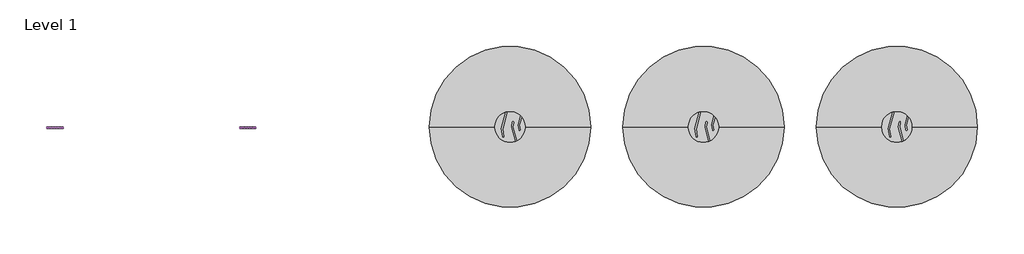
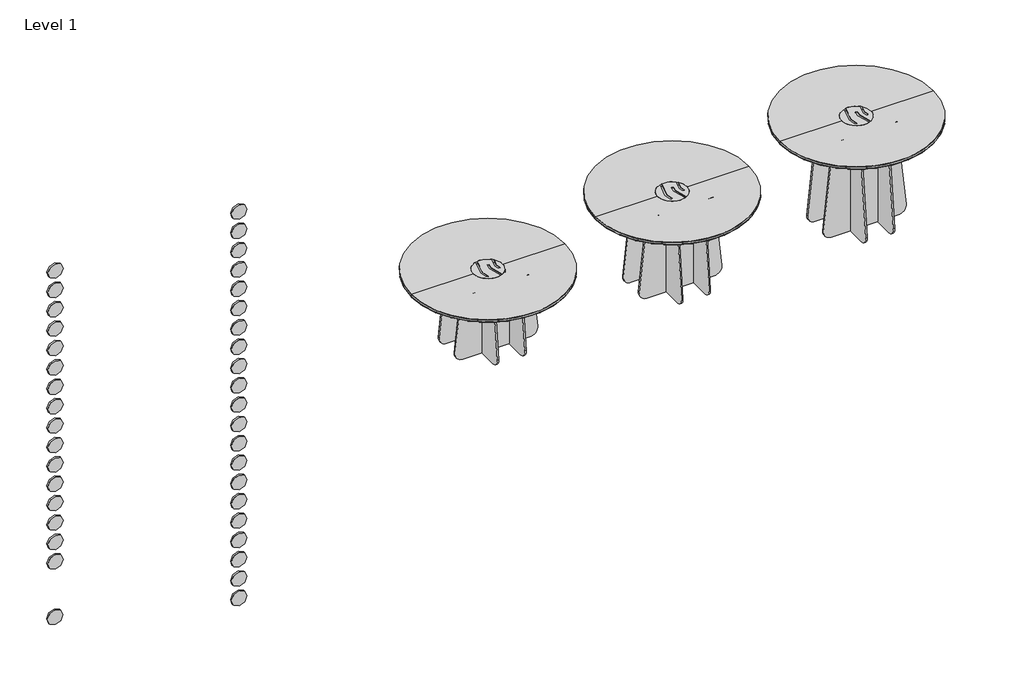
# One storey: 38 proxies, 3 furniture elements.
"""IFC4 building model written with IfcOpenShell, lengths in millimetres."""

from ifc_helpers import new_model, si_unit, origin, place, context, project, spatial, transform, mapped, element, save
from components import materialmodel_materialmodel_7ac49ee1, furniture_c6f4b0c9, furniture_d80e04c3, furniture_6d91cb97

model = new_model("IFC4")

# Units and contexts
model_context = context("Model", 3, world=origin())
ifc_project = project(units=[si_unit("LENGTHUNIT", "METRE", prefix="MILLI")], contexts=[model_context])

# Site, building, storey
site = spatial("IfcSite", under=ifc_project)
building = spatial("IfcBuilding", under=site)
storey = spatial("IfcBuildingStorey", under=building, Name="Level 1", Elevation=0.0)

# Proxies
placement = place(None, origin())
materialmodel_materialmodel_shape = materialmodel_materialmodel_7ac49ee1(model_context)
element("IfcBuildingElementProxy", 1, Name="MaterialModel : MaterialModel", ObjectType="MaterialModel : MaterialModel", at=placement, inside=storey, context=model_context, shape_type="MappedRepresentation", body=[
    mapped(materialmodel_materialmodel_shape, transform((-14563.2398028, 705.5961609, 2194.7148789), x_axis=(1.0, 0.0, 0.0), y_axis=(0.0, 1.0, 0.0), z_axis=(0.0, 0.0, 1.0))),
])
element("IfcBuildingElementProxy", 2, Name="MaterialModel : MaterialModel", ObjectType="MaterialModel : MaterialModel", at=placement, inside=storey, context=model_context, shape_type="MappedRepresentation", body=[
    mapped(materialmodel_materialmodel_shape, transform((-14563.2398028, 705.5961609, 1994.3990228), x_axis=(1.0, 0.0, 0.0), y_axis=(0.0, 1.0, 0.0), z_axis=(0.0, 0.0, 1.0))),
])
element("IfcBuildingElementProxy", 3, Name="MaterialModel : MaterialModel", ObjectType="MaterialModel : MaterialModel", at=placement, inside=storey, context=model_context, shape_type="MappedRepresentation", body=[
    mapped(materialmodel_materialmodel_shape, transform((-14563.2398028, 705.5961609, 1794.0831667), x_axis=(1.0, 0.0, 0.0), y_axis=(0.0, 1.0, 0.0), z_axis=(0.0, 0.0, 1.0))),
])
element("IfcBuildingElementProxy", 4, Name="MaterialModel : MaterialModel", ObjectType="MaterialModel : MaterialModel", at=placement, inside=storey, context=model_context, shape_type="MappedRepresentation", body=[
    mapped(materialmodel_materialmodel_shape, transform((-12769.1644389, 705.5961609, 2176.01732), x_axis=(1.0, 0.0, 0.0), y_axis=(0.0, 1.0, 0.0), z_axis=(0.0, 0.0, 1.0))),
])
element("IfcBuildingElementProxy", 5, Name="MaterialModel : MaterialModel", ObjectType="MaterialModel : MaterialModel", at=placement, inside=storey, context=model_context, shape_type="MappedRepresentation", body=[
    mapped(materialmodel_materialmodel_shape, transform((-12769.1644389, 705.5961609, 1976.4514639), x_axis=(1.0, 0.0, 0.0), y_axis=(0.0, 1.0, 0.0), z_axis=(0.0, 0.0, 1.0))),
])
element("IfcBuildingElementProxy", 6, Name="MaterialModel : MaterialModel", ObjectType="MaterialModel : MaterialModel", at=placement, inside=storey, context=model_context, shape_type="MappedRepresentation", body=[
    mapped(materialmodel_materialmodel_shape, transform((-12769.1644389, 705.5961609, 1776.8856078), x_axis=(1.0, 0.0, 0.0), y_axis=(0.0, 1.0, 0.0), z_axis=(0.0, 0.0, 1.0))),
])
element("IfcBuildingElementProxy", 7, Name="MaterialModel : MaterialModel", ObjectType="MaterialModel : MaterialModel", at=placement, inside=storey, context=model_context, shape_type="MappedRepresentation", body=[
    mapped(materialmodel_materialmodel_shape, transform((-12769.1644389, 705.5961609, 1577.3197517), x_axis=(1.0, 0.0, 0.0), y_axis=(0.0, 1.0, 0.0), z_axis=(0.0, 0.0, 1.0))),
])
element("IfcBuildingElementProxy", 8, Name="MaterialModel : MaterialModel", ObjectType="MaterialModel : MaterialModel", at=placement, inside=storey, context=model_context, shape_type="MappedRepresentation", body=[
    mapped(materialmodel_materialmodel_shape, transform((-12769.1644389, 705.5961609, 1377.7538956), x_axis=(1.0, 0.0, 0.0), y_axis=(0.0, 1.0, 0.0), z_axis=(0.0, 0.0, 1.0))),
])
element("IfcBuildingElementProxy", 9, Name="MaterialModel : MaterialModel", ObjectType="MaterialModel : MaterialModel", at=placement, inside=storey, context=model_context, shape_type="MappedRepresentation", body=[
    mapped(materialmodel_materialmodel_shape, transform((-12769.1644389, 705.5961609, 1178.1880395), x_axis=(1.0, 0.0, 0.0), y_axis=(0.0, 1.0, 0.0), z_axis=(0.0, 0.0, 1.0))),
])
element("IfcBuildingElementProxy", 10, Name="MaterialModel : MaterialModel", ObjectType="MaterialModel : MaterialModel", at=placement, inside=storey, context=model_context, shape_type="MappedRepresentation", body=[
    mapped(materialmodel_materialmodel_shape, transform((-12769.1644389, 705.5961609, 978.6221834), x_axis=(1.0, 0.0, 0.0), y_axis=(0.0, 1.0, 0.0), z_axis=(0.0, 0.0, 1.0))),
])
element("IfcBuildingElementProxy", 11, Name="MaterialModel : MaterialModel", ObjectType="MaterialModel : MaterialModel", at=placement, inside=storey, context=model_context, shape_type="MappedRepresentation", body=[
    mapped(materialmodel_materialmodel_shape, transform((-12769.1644389, 705.5961609, 779.0563273), x_axis=(1.0, 0.0, 0.0), y_axis=(0.0, 1.0, 0.0), z_axis=(0.0, 0.0, 1.0))),
])
element("IfcBuildingElementProxy", 12, Name="MaterialModel : MaterialModel", ObjectType="MaterialModel : MaterialModel", at=placement, inside=storey, context=model_context, shape_type="MappedRepresentation", body=[
    mapped(materialmodel_materialmodel_shape, transform((-12769.1644389, 705.5961609, 579.4904712), x_axis=(1.0, 0.0, 0.0), y_axis=(0.0, 1.0, 0.0), z_axis=(0.0, 0.0, 1.0))),
])
element("IfcBuildingElementProxy", 13, Name="MaterialModel : MaterialModel", ObjectType="MaterialModel : MaterialModel", at=placement, inside=storey, context=model_context, shape_type="MappedRepresentation", body=[
    mapped(materialmodel_materialmodel_shape, transform((-12769.1644389, 705.5961609, 379.9246151), x_axis=(1.0, 0.0, 0.0), y_axis=(0.0, 1.0, 0.0), z_axis=(0.0, 0.0, 1.0))),
])
element("IfcBuildingElementProxy", 14, Name="MaterialModel : MaterialModel", ObjectType="MaterialModel : MaterialModel", at=placement, inside=storey, context=model_context, shape_type="MappedRepresentation", body=[
    mapped(materialmodel_materialmodel_shape, transform((-12769.1644389, 705.5961609, 180.358759), x_axis=(1.0, 0.0, 0.0), y_axis=(0.0, 1.0, 0.0), z_axis=(0.0, 0.0, 1.0))),
])
element("IfcBuildingElementProxy", 15, Name="MaterialModel : MaterialModel", ObjectType="MaterialModel : MaterialModel", at=placement, inside=storey, context=model_context, shape_type="MappedRepresentation", body=[
    mapped(materialmodel_materialmodel_shape, transform((-12769.1644389, 705.5961609, -19.2070971), x_axis=(1.0, 0.0, 0.0), y_axis=(0.0, 1.0, 0.0), z_axis=(0.0, 0.0, 1.0))),
])
element("IfcBuildingElementProxy", 16, Name="MaterialModel : MaterialModel", ObjectType="MaterialModel : MaterialModel", at=placement, inside=storey, context=model_context, shape_type="MappedRepresentation", body=[
    mapped(materialmodel_materialmodel_shape, transform((-12769.1644389, 705.5961609, -218.7729532), x_axis=(1.0, 0.0, 0.0), y_axis=(0.0, 1.0, 0.0), z_axis=(0.0, 0.0, 1.0))),
])
element("IfcBuildingElementProxy", 17, Name="MaterialModel : MaterialModel", ObjectType="MaterialModel : MaterialModel", at=placement, inside=storey, context=model_context, shape_type="MappedRepresentation", body=[
    mapped(materialmodel_materialmodel_shape, transform((-12769.1644389, 705.5961609, -418.3388093), x_axis=(1.0, 0.0, 0.0), y_axis=(0.0, 1.0, 0.0), z_axis=(0.0, 0.0, 1.0))),
])
element("IfcBuildingElementProxy", 18, Name="MaterialModel : MaterialModel", ObjectType="MaterialModel : MaterialModel", at=placement, inside=storey, context=model_context, shape_type="MappedRepresentation", body=[
    mapped(materialmodel_materialmodel_shape, transform((-12769.1644389, 705.5961609, -617.9046654), x_axis=(1.0, 0.0, 0.0), y_axis=(0.0, 1.0, 0.0), z_axis=(0.0, 0.0, 1.0))),
])
element("IfcBuildingElementProxy", 19, Name="MaterialModel : MaterialModel", ObjectType="MaterialModel : MaterialModel", at=placement, inside=storey, context=model_context, shape_type="MappedRepresentation", body=[
    mapped(materialmodel_materialmodel_shape, transform((-12769.1644389, 705.5961609, -817.4705215), x_axis=(1.0, 0.0, 0.0), y_axis=(0.0, 1.0, 0.0), z_axis=(0.0, 0.0, 1.0))),
])
element("IfcBuildingElementProxy", 20, Name="MaterialModel : MaterialModel", ObjectType="MaterialModel : MaterialModel", at=placement, inside=storey, context=model_context, shape_type="MappedRepresentation", body=[
    mapped(materialmodel_materialmodel_shape, transform((-12769.1644389, 705.5961609, -1017.0363776), x_axis=(1.0, 0.0, 0.0), y_axis=(0.0, 1.0, 0.0), z_axis=(0.0, 0.0, 1.0))),
])
element("IfcBuildingElementProxy", 21, Name="MaterialModel : MaterialModel", ObjectType="MaterialModel : MaterialModel", at=placement, inside=storey, context=model_context, shape_type="MappedRepresentation", body=[
    mapped(materialmodel_materialmodel_shape, transform((-12769.1644389, 705.5961609, -1216.6022337), x_axis=(1.0, 0.0, 0.0), y_axis=(0.0, 1.0, 0.0), z_axis=(0.0, 0.0, 1.0))),
])
element("IfcBuildingElementProxy", 22, Name="MaterialModel : MaterialModel", ObjectType="MaterialModel : MaterialModel", at=placement, inside=storey, context=model_context, shape_type="MappedRepresentation", body=[
    mapped(materialmodel_materialmodel_shape, transform((-12769.1644389, 705.5961609, -1416.1680898), x_axis=(1.0, 0.0, 0.0), y_axis=(0.0, 1.0, 0.0), z_axis=(0.0, 0.0, 1.0))),
])
element("IfcBuildingElementProxy", 23, Name="MaterialModel : MaterialModel", ObjectType="MaterialModel : MaterialModel", at=placement, inside=storey, context=model_context, shape_type="MappedRepresentation", body=[
    mapped(materialmodel_materialmodel_shape, transform((-12769.1644389, 705.5961609, -1615.7339459), x_axis=(1.0, 0.0, 0.0), y_axis=(0.0, 1.0, 0.0), z_axis=(0.0, 0.0, 1.0))),
])
element("IfcBuildingElementProxy", 24, Name="MaterialModel : MaterialModel", ObjectType="MaterialModel : MaterialModel", at=placement, inside=storey, context=model_context, shape_type="MappedRepresentation", body=[
    mapped(materialmodel_materialmodel_shape, transform((-12769.1644389, 705.5961609, -1815.299802), x_axis=(1.0, 0.0, 0.0), y_axis=(0.0, 1.0, 0.0), z_axis=(0.0, 0.0, 1.0))),
])
element("IfcBuildingElementProxy", 25, Name="MaterialModel : MaterialModel", ObjectType="MaterialModel : MaterialModel", at=placement, inside=storey, context=model_context, shape_type="MappedRepresentation", body=[
    mapped(materialmodel_materialmodel_shape, transform((-14563.2398028, 705.5961609, 1593.7673106), x_axis=(1.0, 0.0, 0.0), y_axis=(0.0, 1.0, 0.0), z_axis=(0.0, 0.0, 1.0))),
])
element("IfcBuildingElementProxy", 26, Name="MaterialModel : MaterialModel", ObjectType="MaterialModel : MaterialModel", at=placement, inside=storey, context=model_context, shape_type="MappedRepresentation", body=[
    mapped(materialmodel_materialmodel_shape, transform((-14563.2398028, 705.5961609, 1393.4514546), x_axis=(1.0, 0.0, 0.0), y_axis=(0.0, 1.0, 0.0), z_axis=(0.0, 0.0, 1.0))),
])
element("IfcBuildingElementProxy", 27, Name="MaterialModel : MaterialModel", ObjectType="MaterialModel : MaterialModel", at=placement, inside=storey, context=model_context, shape_type="MappedRepresentation", body=[
    mapped(materialmodel_materialmodel_shape, transform((-14563.2398028, 705.5961609, 1193.1355985), x_axis=(1.0, 0.0, 0.0), y_axis=(0.0, 1.0, 0.0), z_axis=(0.0, 0.0, 1.0))),
])
element("IfcBuildingElementProxy", 28, Name="MaterialModel : MaterialModel", ObjectType="MaterialModel : MaterialModel", at=placement, inside=storey, context=model_context, shape_type="MappedRepresentation", body=[
    mapped(materialmodel_materialmodel_shape, transform((-14563.2398028, 705.5961609, 992.8197424), x_axis=(1.0, 0.0, 0.0), y_axis=(0.0, 1.0, 0.0), z_axis=(0.0, 0.0, 1.0))),
])
element("IfcBuildingElementProxy", 29, Name="MaterialModel : MaterialModel", ObjectType="MaterialModel : MaterialModel", at=placement, inside=storey, context=model_context, shape_type="MappedRepresentation", body=[
    mapped(materialmodel_materialmodel_shape, transform((-14563.2398028, 705.5961609, 792.5038863), x_axis=(1.0, 0.0, 0.0), y_axis=(0.0, 1.0, 0.0), z_axis=(0.0, 0.0, 1.0))),
])
element("IfcBuildingElementProxy", 30, Name="MaterialModel : MaterialModel", ObjectType="MaterialModel : MaterialModel", at=placement, inside=storey, context=model_context, shape_type="MappedRepresentation", body=[
    mapped(materialmodel_materialmodel_shape, transform((-14563.2398028, 705.5961609, 592.1880302), x_axis=(1.0, 0.0, 0.0), y_axis=(0.0, 1.0, 0.0), z_axis=(0.0, 0.0, 1.0))),
])
element("IfcBuildingElementProxy", 31, Name="MaterialModel : MaterialModel", ObjectType="MaterialModel : MaterialModel", at=placement, inside=storey, context=model_context, shape_type="MappedRepresentation", body=[
    mapped(materialmodel_materialmodel_shape, transform((-14563.2398028, 705.5961609, 391.8721741), x_axis=(1.0, 0.0, 0.0), y_axis=(0.0, 1.0, 0.0), z_axis=(0.0, 0.0, 1.0))),
])
element("IfcBuildingElementProxy", 32, Name="MaterialModel : MaterialModel", ObjectType="MaterialModel : MaterialModel", at=placement, inside=storey, context=model_context, shape_type="MappedRepresentation", body=[
    mapped(materialmodel_materialmodel_shape, transform((-14563.2398028, 705.5961609, 191.556318), x_axis=(1.0, 0.0, 0.0), y_axis=(0.0, 1.0, 0.0), z_axis=(0.0, 0.0, 1.0))),
])
element("IfcBuildingElementProxy", 33, Name="MaterialModel : MaterialModel", ObjectType="MaterialModel : MaterialModel", at=placement, inside=storey, context=model_context, shape_type="MappedRepresentation", body=[
    mapped(materialmodel_materialmodel_shape, transform((-14563.2398028, 705.5961609, -8.7595381), x_axis=(1.0, 0.0, 0.0), y_axis=(0.0, 1.0, 0.0), z_axis=(0.0, 0.0, 1.0))),
])
element("IfcBuildingElementProxy", 34, Name="MaterialModel : MaterialModel", ObjectType="MaterialModel : MaterialModel", at=placement, inside=storey, context=model_context, shape_type="MappedRepresentation", body=[
    mapped(materialmodel_materialmodel_shape, transform((-14563.2398028, 705.5961609, -209.0753942), x_axis=(1.0, 0.0, 0.0), y_axis=(0.0, 1.0, 0.0), z_axis=(0.0, 0.0, 1.0))),
])
element("IfcBuildingElementProxy", 35, Name="MaterialModel : MaterialModel", ObjectType="MaterialModel : MaterialModel", at=placement, inside=storey, context=model_context, shape_type="MappedRepresentation", body=[
    mapped(materialmodel_materialmodel_shape, transform((-14563.2398028, 705.5961609, -409.3912503), x_axis=(1.0, 0.0, 0.0), y_axis=(0.0, 1.0, 0.0), z_axis=(0.0, 0.0, 1.0))),
])
element("IfcBuildingElementProxy", 36, Name="MaterialModel : MaterialModel", ObjectType="MaterialModel : MaterialModel", at=placement, inside=storey, context=model_context, shape_type="MappedRepresentation", body=[
    mapped(materialmodel_materialmodel_shape, transform((-14563.2398028, 705.5961609, -609.7071064), x_axis=(1.0, 0.0, 0.0), y_axis=(0.0, 1.0, 0.0), z_axis=(0.0, 0.0, 1.0))),
])
element("IfcBuildingElementProxy", 37, Name="MaterialModel : MaterialModel", ObjectType="MaterialModel : MaterialModel", at=placement, inside=storey, context=model_context, shape_type="MappedRepresentation", body=[
    mapped(materialmodel_materialmodel_shape, transform((-14563.2398028, 705.5961609, -810.0229625), x_axis=(1.0, 0.0, 0.0), y_axis=(0.0, 1.0, 0.0), z_axis=(0.0, 0.0, 1.0))),
])
element("IfcBuildingElementProxy", 38, Name="MaterialModel : MaterialModel", ObjectType="MaterialModel : MaterialModel", at=placement, inside=storey, context=model_context, shape_type="MappedRepresentation", body=[
    mapped(materialmodel_materialmodel_shape, transform((-14566.7697973, 705.5961609, -1381.6290414), x_axis=(1.0, 0.0, 0.0), y_axis=(0.0, 1.0, 0.0), z_axis=(0.0, 0.0, 1.0))),
])

# Furniture
furniture_shape = furniture_c6f4b0c9(model_context)
element("IfcFurniture", 39, ObjectType="Lundbergs Möbler - Funghi - Table - Round - Ø150 - H105 : Lundbergs Möbler - Funghi - Table - Round - Ø150 - H105", at=placement, inside=storey, context=model_context, shape_type="MappedRepresentation", body=[
    mapped(furniture_shape, transform((-6728.8878123, 713.4424658, 0.0), x_axis=(0.0, -1.0, 0.0), y_axis=(1.0, 0.0, 0.0), z_axis=(0.0, 0.0, 1.0))),
])
furniture_2_shape = furniture_d80e04c3(model_context)
element("IfcFurniture", 40, ObjectType="Lundbergs Möbler - Funghi - Table - Round - Ø150 - H90 : Lundbergs Möbler - Funghi - Table - Round - Ø150 - H90", at=placement, inside=storey, context=model_context, shape_type="MappedRepresentation", body=[
    mapped(furniture_2_shape, transform((-8528.8878123, 713.4424658, 0.0), x_axis=(0.0, -1.0, 0.0), y_axis=(1.0, 0.0, 0.0), z_axis=(0.0, 0.0, 1.0))),
])
furniture_3_shape = furniture_6d91cb97(model_context)
element("IfcFurniture", 41, ObjectType="Lundbergs Möbler - Funghi - Table - Round - Ø150 - H73 : Lundbergs Möbler - Funghi - Table - Round - Ø150 - H73", at=placement, inside=storey, context=model_context, shape_type="MappedRepresentation", body=[
    mapped(furniture_3_shape, transform((-10328.8878123, 713.4424658, 0.0), x_axis=(0.0, -1.0, 0.0), y_axis=(1.0, 0.0, 0.0), z_axis=(0.0, 0.0, 1.0))),
])

save(model, "model.ifc")
